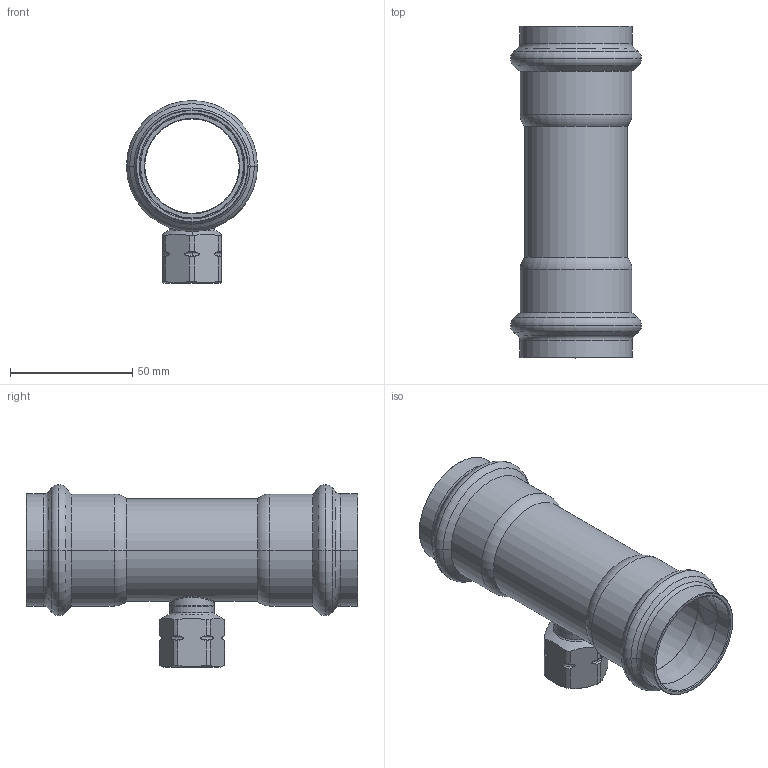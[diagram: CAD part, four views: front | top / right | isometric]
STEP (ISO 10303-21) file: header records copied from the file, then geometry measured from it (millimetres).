
FILE_DESCRIPTION(('CoCreate Modeling STEP Export'),'2;1');
FILE_NAME('8130GVW421242.stp','2013-02-12T14:15:46',(''),(''),'CoCreate Modeling STEP processor for AP214 (Solid Model)','CoCreate Modeling 17.00A 17-Jun-2010 (C) Parametric Technology GmbH','');
FILE_SCHEMA(('AUTOMOTIVE_DESIGN { 1 0 10303 214 1 1 1 1 }'));
Length unit declared in the file: millimetre
Products named in the file (1): 8130GVW421242
Bounding box: 53.61 x 135.73 x 74.81 mm (x, y, z)
Volume: 44309.9 mm3; surface area: 42566.2 mm2
Topology: 1 solids, 1 shells, 147 faces, 351 edges, 211 vertices
Faces by surface type: cylinder 46, cone 46, torus 38, plane 13, bspline 4
Entity records: 9140 total; most frequent: CARTESIAN_POINT 6328, ORIENTED_EDGE 702, DIRECTION 434, EDGE_CURVE 351, VERTEX_POINT 211, AXIS2_PLACEMENT_3D 177, EDGE_LOOP 156, FACE_OUTER_BOUND 147
